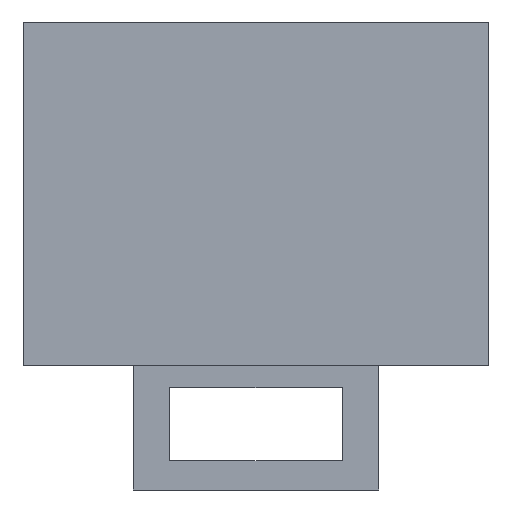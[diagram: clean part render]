
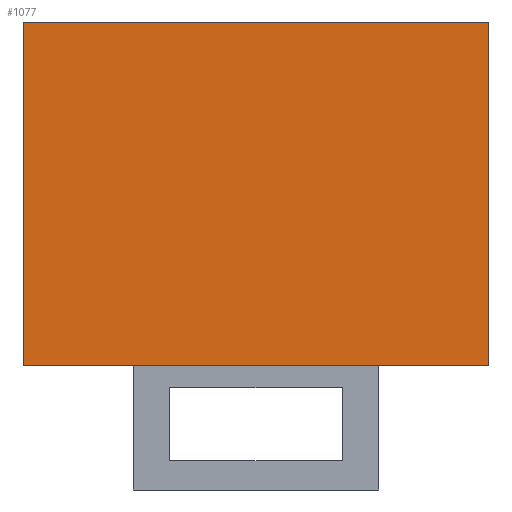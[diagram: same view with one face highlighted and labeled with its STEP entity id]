
A CAD part, front view. The second image highlights one B-rep face of the part: STEP entity #1077.
In plain terms, the highlighted planar face has unit normal (0, -1, 0).
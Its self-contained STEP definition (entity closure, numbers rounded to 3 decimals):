
#33 = CARTESIAN_POINT ( 'NONE',  ( 15.9, 0., -11. ) ) ;
#58 = EDGE_LOOP ( 'NONE', ( #610, #921, #145, #431 ) ) ;
#93 = AXIS2_PLACEMENT_3D ( 'NONE', #191, #786, #761 ) ;
#130 = EDGE_CURVE ( 'NONE', #669, #179, #717, .T. ) ;
#145 = ORIENTED_EDGE ( 'NONE', *, *, #130, .T. ) ;
#156 = VECTOR ( 'NONE', #1053, 1000. ) ;
#179 = VERTEX_POINT ( 'NONE', #776 ) ;
#191 = CARTESIAN_POINT ( 'NONE',  ( 0., 0., -12.5 ) ) ;
#218 = VECTOR ( 'NONE', #1002, 1000. ) ;
#236 = VERTEX_POINT ( 'NONE', #850 ) ;
#262 = EDGE_CURVE ( 'NONE', #236, #179, #310, .T. ) ;
#291 = CARTESIAN_POINT ( 'NONE',  ( 0., 0., 12.5 ) ) ;
#310 = LINE ( 'NONE', #742, #156 ) ;
#317 = VECTOR ( 'NONE', #963, 1000. ) ;
#325 = LINE ( 'NONE', #667, #218 ) ;
#415 = FACE_OUTER_BOUND ( 'NONE', #58, .T. ) ;
#422 = VECTOR ( 'NONE', #630, 1000. ) ;
#431 = ORIENTED_EDGE ( 'NONE', *, *, #262, .F. ) ;
#610 = ORIENTED_EDGE ( 'NONE', *, *, #1016, .F. ) ;
#628 = LINE ( 'NONE', #1044, #317 ) ;
#630 = DIRECTION ( 'NONE',  ( -1., 0., 0. ) ) ;
#667 = CARTESIAN_POINT ( 'NONE',  ( 0., 0., -11. ) ) ;
#669 = VERTEX_POINT ( 'NONE', #870 ) ;
#674 = PLANE ( 'NONE',  #93 ) ;
#691 = VERTEX_POINT ( 'NONE', #33 ) ;
#705 = EDGE_CURVE ( 'NONE', #691, #669, #628, .T. ) ;
#717 = LINE ( 'NONE', #291, #422 ) ;
#742 = CARTESIAN_POINT ( 'NONE',  ( -15.9, 0., -12.5 ) ) ;
#761 = DIRECTION ( 'NONE',  ( -1., 0., 0. ) ) ;
#776 = CARTESIAN_POINT ( 'NONE',  ( -15.9, 0., 12.5 ) ) ;
#786 = DIRECTION ( 'NONE',  ( 0., 1., 0. ) ) ;
#850 = CARTESIAN_POINT ( 'NONE',  ( -15.9, 0., -11. ) ) ;
#870 = CARTESIAN_POINT ( 'NONE',  ( 15.9, 0., 12.5 ) ) ;
#921 = ORIENTED_EDGE ( 'NONE', *, *, #705, .T. ) ;
#963 = DIRECTION ( 'NONE',  ( 0., 0., 1. ) ) ;
#1002 = DIRECTION ( 'NONE',  ( -1., 0., 0. ) ) ;
#1016 = EDGE_CURVE ( 'NONE', #691, #236, #325, .T. ) ;
#1044 = CARTESIAN_POINT ( 'NONE',  ( 15.9, 0., -12.5 ) ) ;
#1053 = DIRECTION ( 'NONE',  ( 0., 0., 1. ) ) ;
#1077 = ADVANCED_FACE ( 'NONE', ( #415 ), #674, .F. ) ;
